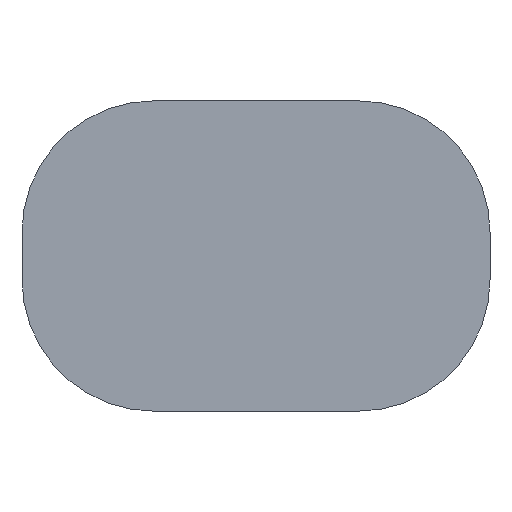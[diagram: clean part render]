
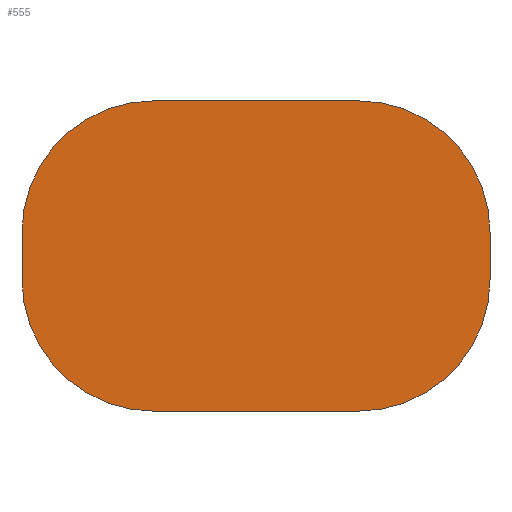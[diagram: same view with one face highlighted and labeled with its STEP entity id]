
A CAD part, left-side view. The second image highlights one B-rep face of the part: STEP entity #555.
In plain terms, the highlighted planar face has unit normal (-1, 0, 0).
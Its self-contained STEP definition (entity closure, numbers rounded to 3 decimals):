
#32 = PLANE('',#33);
#33 = AXIS2_PLACEMENT_3D('',#34,#35,#36);
#34 = CARTESIAN_POINT('',(43.5,-3.9,5.9));
#35 = DIRECTION('',(0.,0.,-1.));
#36 = DIRECTION('',(1.,0.,0.));
#57 = VERTEX_POINT('',#58);
#58 = CARTESIAN_POINT('',(43.5,1.1,5.9));
#72 = CYLINDRICAL_SURFACE('',#73,5.);
#73 = AXIS2_PLACEMENT_3D('',#74,#75,#76);
#74 = CARTESIAN_POINT('',(43.5,1.1,0.9));
#75 = DIRECTION('',(1.,0.,0.));
#76 = DIRECTION('',(0.,0.,1.));
#84 = EDGE_CURVE('',#57,#85,#87,.T.);
#85 = VERTEX_POINT('',#86);
#86 = CARTESIAN_POINT('',(43.5,8.9,5.9));
#87 = SURFACE_CURVE('',#88,(#92,#99),.PCURVE_S1.);
#88 = LINE('',#89,#90);
#89 = CARTESIAN_POINT('',(43.5,-3.9,5.9));
#90 = VECTOR('',#91,1.);
#91 = DIRECTION('',(0.,1.,0.));
#92 = PCURVE('',#32,#93);
#93 = DEFINITIONAL_REPRESENTATION('',(#94),#98);
#94 = LINE('',#95,#96);
#95 = CARTESIAN_POINT('',(0.,0.));
#96 = VECTOR('',#97,1.);
#97 = DIRECTION('',(0.,-1.));
#98 = ( GEOMETRIC_REPRESENTATION_CONTEXT(2) 
PARAMETRIC_REPRESENTATION_CONTEXT() REPRESENTATION_CONTEXT('2D SPACE',''
  ) );
#99 = PCURVE('',#100,#105);
#100 = PLANE('',#101);
#101 = AXIS2_PLACEMENT_3D('',#102,#103,#104);
#102 = CARTESIAN_POINT('',(43.5,-3.9,5.9));
#103 = DIRECTION('',(1.,0.,0.));
#104 = DIRECTION('',(0.,0.,-1.));
#105 = DEFINITIONAL_REPRESENTATION('',(#106),#110);
#106 = LINE('',#107,#108);
#107 = CARTESIAN_POINT('',(0.,0.));
#108 = VECTOR('',#109,1.);
#109 = DIRECTION('',(0.,1.));
#110 = ( GEOMETRIC_REPRESENTATION_CONTEXT(2) 
PARAMETRIC_REPRESENTATION_CONTEXT() REPRESENTATION_CONTEXT('2D SPACE',''
  ) );
#126 = CYLINDRICAL_SURFACE('',#127,5.);
#127 = AXIS2_PLACEMENT_3D('',#128,#129,#130);
#128 = CARTESIAN_POINT('',(43.5,8.9,0.9));
#129 = DIRECTION('',(1.,0.,0.));
#130 = DIRECTION('',(0.,0.,1.));
#182 = PLANE('',#183);
#183 = AXIS2_PLACEMENT_3D('',#184,#185,#186);
#184 = CARTESIAN_POINT('',(43.5,-3.9,5.9));
#185 = DIRECTION('',(0.,1.,0.));
#186 = DIRECTION('',(1.,-0.,0.));
#215 = CYLINDRICAL_SURFACE('',#216,5.);
#216 = AXIS2_PLACEMENT_3D('',#217,#218,#219);
#217 = CARTESIAN_POINT('',(43.5,1.1,-0.9));
#218 = DIRECTION('',(1.,0.,0.));
#219 = DIRECTION('',(0.,0.,-1.));
#243 = PLANE('',#244);
#244 = AXIS2_PLACEMENT_3D('',#245,#246,#247);
#245 = CARTESIAN_POINT('',(43.5,-3.9,-5.9));
#246 = DIRECTION('',(0.,0.,-1.));
#247 = DIRECTION('',(1.,0.,0.));
#272 = CYLINDRICAL_SURFACE('',#273,5.);
#273 = AXIS2_PLACEMENT_3D('',#274,#275,#276);
#274 = CARTESIAN_POINT('',(43.5,8.9,-0.9));
#275 = DIRECTION('',(1.,0.,0.));
#276 = DIRECTION('',(0.,0.,-1.));
#300 = PLANE('',#301);
#301 = AXIS2_PLACEMENT_3D('',#302,#303,#304);
#302 = CARTESIAN_POINT('',(43.5,13.9,5.9));
#303 = DIRECTION('',(0.,1.,0.));
#304 = DIRECTION('',(1.,-0.,0.));
#455 = EDGE_CURVE('',#57,#456,#458,.T.);
#456 = VERTEX_POINT('',#457);
#457 = CARTESIAN_POINT('',(43.5,-3.9,0.9));
#458 = SURFACE_CURVE('',#459,(#464,#471),.PCURVE_S1.);
#459 = CIRCLE('',#460,5.);
#460 = AXIS2_PLACEMENT_3D('',#461,#462,#463);
#461 = CARTESIAN_POINT('',(43.5,1.1,0.9));
#462 = DIRECTION('',(1.,0.,0.));
#463 = DIRECTION('',(0.,-1.,0.));
#464 = PCURVE('',#72,#465);
#465 = DEFINITIONAL_REPRESENTATION('',(#466),#470);
#466 = LINE('',#467,#468);
#467 = CARTESIAN_POINT('',(-4.712,0.));
#468 = VECTOR('',#469,1.);
#469 = DIRECTION('',(1.,0.));
#470 = ( GEOMETRIC_REPRESENTATION_CONTEXT(2) 
PARAMETRIC_REPRESENTATION_CONTEXT() REPRESENTATION_CONTEXT('2D SPACE',''
  ) );
#471 = PCURVE('',#100,#472);
#472 = DEFINITIONAL_REPRESENTATION('',(#473),#477);
#473 = CIRCLE('',#474,5.);
#474 = AXIS2_PLACEMENT_2D('',#475,#476);
#475 = CARTESIAN_POINT('',(5.,5.));
#476 = DIRECTION('',(0.,-1.));
#477 = ( GEOMETRIC_REPRESENTATION_CONTEXT(2) 
PARAMETRIC_REPRESENTATION_CONTEXT() REPRESENTATION_CONTEXT('2D SPACE',''
  ) );
#508 = VERTEX_POINT('',#509);
#509 = CARTESIAN_POINT('',(43.5,13.9,0.9));
#530 = EDGE_CURVE('',#85,#508,#531,.T.);
#531 = SURFACE_CURVE('',#532,(#537,#544),.PCURVE_S1.);
#532 = CIRCLE('',#533,5.);
#533 = AXIS2_PLACEMENT_3D('',#534,#535,#536);
#534 = CARTESIAN_POINT('',(43.5,8.9,0.9));
#535 = DIRECTION('',(-1.,-0.,0.));
#536 = DIRECTION('',(0.,-1.,0.));
#537 = PCURVE('',#126,#538);
#538 = DEFINITIONAL_REPRESENTATION('',(#539),#543);
#539 = LINE('',#540,#541);
#540 = CARTESIAN_POINT('',(7.854,0.));
#541 = VECTOR('',#542,1.);
#542 = DIRECTION('',(-1.,0.));
#543 = ( GEOMETRIC_REPRESENTATION_CONTEXT(2) 
PARAMETRIC_REPRESENTATION_CONTEXT() REPRESENTATION_CONTEXT('2D SPACE',''
  ) );
#544 = PCURVE('',#100,#545);
#545 = DEFINITIONAL_REPRESENTATION('',(#546),#554);
#546 = ( BOUNDED_CURVE() B_SPLINE_CURVE(2,(#547,#548,#549,#550,#551,#552
,#553),.UNSPECIFIED.,.T.,.F.) B_SPLINE_CURVE_WITH_KNOTS((1,2,2,2,2,1),(
    -2.094,0.,2.094,4.189,6.283,
8.378),.UNSPECIFIED.) CURVE() GEOMETRIC_REPRESENTATION_ITEM() 
RATIONAL_B_SPLINE_CURVE((1.,0.5,1.,0.5,1.,0.5,1.)) REPRESENTATION_ITEM(
  '') );
#547 = CARTESIAN_POINT('',(5.,7.8));
#548 = CARTESIAN_POINT('',(-3.66,7.8));
#549 = CARTESIAN_POINT('',(0.67,15.3));
#550 = CARTESIAN_POINT('',(5.,22.8));
#551 = CARTESIAN_POINT('',(9.33,15.3));
#552 = CARTESIAN_POINT('',(13.66,7.8));
#553 = CARTESIAN_POINT('',(5.,7.8));
#554 = ( GEOMETRIC_REPRESENTATION_CONTEXT(2) 
PARAMETRIC_REPRESENTATION_CONTEXT() REPRESENTATION_CONTEXT('2D SPACE',''
  ) );
#555 = ADVANCED_FACE('',(#556),#100,.F.);
#556 = FACE_BOUND('',#557,.F.);
#557 = EDGE_LOOP('',(#558,#559,#560,#583,#611,#634,#658,#679));
#558 = ORIENTED_EDGE('',*,*,#84,.F.);
#559 = ORIENTED_EDGE('',*,*,#455,.T.);
#560 = ORIENTED_EDGE('',*,*,#561,.T.);
#561 = EDGE_CURVE('',#456,#562,#564,.T.);
#562 = VERTEX_POINT('',#563);
#563 = CARTESIAN_POINT('',(43.5,-3.9,-0.9));
#564 = SURFACE_CURVE('',#565,(#569,#576),.PCURVE_S1.);
#565 = LINE('',#566,#567);
#566 = CARTESIAN_POINT('',(43.5,-3.9,5.9));
#567 = VECTOR('',#568,1.);
#568 = DIRECTION('',(0.,0.,-1.));
#569 = PCURVE('',#100,#570);
#570 = DEFINITIONAL_REPRESENTATION('',(#571),#575);
#571 = LINE('',#572,#573);
#572 = CARTESIAN_POINT('',(0.,0.));
#573 = VECTOR('',#574,1.);
#574 = DIRECTION('',(1.,0.));
#575 = ( GEOMETRIC_REPRESENTATION_CONTEXT(2) 
PARAMETRIC_REPRESENTATION_CONTEXT() REPRESENTATION_CONTEXT('2D SPACE',''
  ) );
#576 = PCURVE('',#182,#577);
#577 = DEFINITIONAL_REPRESENTATION('',(#578),#582);
#578 = LINE('',#579,#580);
#579 = CARTESIAN_POINT('',(0.,0.));
#580 = VECTOR('',#581,1.);
#581 = DIRECTION('',(0.,1.));
#582 = ( GEOMETRIC_REPRESENTATION_CONTEXT(2) 
PARAMETRIC_REPRESENTATION_CONTEXT() REPRESENTATION_CONTEXT('2D SPACE',''
  ) );
#583 = ORIENTED_EDGE('',*,*,#584,.F.);
#584 = EDGE_CURVE('',#585,#562,#587,.T.);
#585 = VERTEX_POINT('',#586);
#586 = CARTESIAN_POINT('',(43.5,1.1,-5.9));
#587 = SURFACE_CURVE('',#588,(#593,#604),.PCURVE_S1.);
#588 = CIRCLE('',#589,5.);
#589 = AXIS2_PLACEMENT_3D('',#590,#591,#592);
#590 = CARTESIAN_POINT('',(43.5,1.1,-0.9));
#591 = DIRECTION('',(-1.,-0.,0.));
#592 = DIRECTION('',(0.,-1.,0.));
#593 = PCURVE('',#100,#594);
#594 = DEFINITIONAL_REPRESENTATION('',(#595),#603);
#595 = ( BOUNDED_CURVE() B_SPLINE_CURVE(2,(#596,#597,#598,#599,#600,#601
,#602),.UNSPECIFIED.,.T.,.F.) B_SPLINE_CURVE_WITH_KNOTS((1,2,2,2,2,1),(
    -2.094,0.,2.094,4.189,6.283,
8.378),.UNSPECIFIED.) CURVE() GEOMETRIC_REPRESENTATION_ITEM() 
RATIONAL_B_SPLINE_CURVE((1.,0.5,1.,0.5,1.,0.5,1.)) REPRESENTATION_ITEM(
  '') );
#596 = CARTESIAN_POINT('',(6.8,0.));
#597 = CARTESIAN_POINT('',(-1.86,0.));
#598 = CARTESIAN_POINT('',(2.47,7.5));
#599 = CARTESIAN_POINT('',(6.8,15.));
#600 = CARTESIAN_POINT('',(11.13,7.5));
#601 = CARTESIAN_POINT('',(15.46,0.));
#602 = CARTESIAN_POINT('',(6.8,0.));
#603 = ( GEOMETRIC_REPRESENTATION_CONTEXT(2) 
PARAMETRIC_REPRESENTATION_CONTEXT() REPRESENTATION_CONTEXT('2D SPACE',''
  ) );
#604 = PCURVE('',#215,#605);
#605 = DEFINITIONAL_REPRESENTATION('',(#606),#610);
#606 = LINE('',#607,#608);
#607 = CARTESIAN_POINT('',(10.996,0.));
#608 = VECTOR('',#609,1.);
#609 = DIRECTION('',(-1.,0.));
#610 = ( GEOMETRIC_REPRESENTATION_CONTEXT(2) 
PARAMETRIC_REPRESENTATION_CONTEXT() REPRESENTATION_CONTEXT('2D SPACE',''
  ) );
#611 = ORIENTED_EDGE('',*,*,#612,.T.);
#612 = EDGE_CURVE('',#585,#613,#615,.T.);
#613 = VERTEX_POINT('',#614);
#614 = CARTESIAN_POINT('',(43.5,8.9,-5.9));
#615 = SURFACE_CURVE('',#616,(#620,#627),.PCURVE_S1.);
#616 = LINE('',#617,#618);
#617 = CARTESIAN_POINT('',(43.5,-3.9,-5.9));
#618 = VECTOR('',#619,1.);
#619 = DIRECTION('',(0.,1.,0.));
#620 = PCURVE('',#100,#621);
#621 = DEFINITIONAL_REPRESENTATION('',(#622),#626);
#622 = LINE('',#623,#624);
#623 = CARTESIAN_POINT('',(11.8,0.));
#624 = VECTOR('',#625,1.);
#625 = DIRECTION('',(0.,1.));
#626 = ( GEOMETRIC_REPRESENTATION_CONTEXT(2) 
PARAMETRIC_REPRESENTATION_CONTEXT() REPRESENTATION_CONTEXT('2D SPACE',''
  ) );
#627 = PCURVE('',#243,#628);
#628 = DEFINITIONAL_REPRESENTATION('',(#629),#633);
#629 = LINE('',#630,#631);
#630 = CARTESIAN_POINT('',(0.,0.));
#631 = VECTOR('',#632,1.);
#632 = DIRECTION('',(0.,-1.));
#633 = ( GEOMETRIC_REPRESENTATION_CONTEXT(2) 
PARAMETRIC_REPRESENTATION_CONTEXT() REPRESENTATION_CONTEXT('2D SPACE',''
  ) );
#634 = ORIENTED_EDGE('',*,*,#635,.T.);
#635 = EDGE_CURVE('',#613,#636,#638,.T.);
#636 = VERTEX_POINT('',#637);
#637 = CARTESIAN_POINT('',(43.5,13.9,-0.9));
#638 = SURFACE_CURVE('',#639,(#644,#651),.PCURVE_S1.);
#639 = CIRCLE('',#640,5.);
#640 = AXIS2_PLACEMENT_3D('',#641,#642,#643);
#641 = CARTESIAN_POINT('',(43.5,8.9,-0.9));
#642 = DIRECTION('',(1.,0.,0.));
#643 = DIRECTION('',(0.,-1.,0.));
#644 = PCURVE('',#100,#645);
#645 = DEFINITIONAL_REPRESENTATION('',(#646),#650);
#646 = CIRCLE('',#647,5.);
#647 = AXIS2_PLACEMENT_2D('',#648,#649);
#648 = CARTESIAN_POINT('',(6.8,12.8));
#649 = DIRECTION('',(0.,-1.));
#650 = ( GEOMETRIC_REPRESENTATION_CONTEXT(2) 
PARAMETRIC_REPRESENTATION_CONTEXT() REPRESENTATION_CONTEXT('2D SPACE',''
  ) );
#651 = PCURVE('',#272,#652);
#652 = DEFINITIONAL_REPRESENTATION('',(#653),#657);
#653 = LINE('',#654,#655);
#654 = CARTESIAN_POINT('',(-1.571,0.));
#655 = VECTOR('',#656,1.);
#656 = DIRECTION('',(1.,0.));
#657 = ( GEOMETRIC_REPRESENTATION_CONTEXT(2) 
PARAMETRIC_REPRESENTATION_CONTEXT() REPRESENTATION_CONTEXT('2D SPACE',''
  ) );
#658 = ORIENTED_EDGE('',*,*,#659,.F.);
#659 = EDGE_CURVE('',#508,#636,#660,.T.);
#660 = SURFACE_CURVE('',#661,(#665,#672),.PCURVE_S1.);
#661 = LINE('',#662,#663);
#662 = CARTESIAN_POINT('',(43.5,13.9,5.9));
#663 = VECTOR('',#664,1.);
#664 = DIRECTION('',(0.,0.,-1.));
#665 = PCURVE('',#100,#666);
#666 = DEFINITIONAL_REPRESENTATION('',(#667),#671);
#667 = LINE('',#668,#669);
#668 = CARTESIAN_POINT('',(0.,17.8));
#669 = VECTOR('',#670,1.);
#670 = DIRECTION('',(1.,0.));
#671 = ( GEOMETRIC_REPRESENTATION_CONTEXT(2) 
PARAMETRIC_REPRESENTATION_CONTEXT() REPRESENTATION_CONTEXT('2D SPACE',''
  ) );
#672 = PCURVE('',#300,#673);
#673 = DEFINITIONAL_REPRESENTATION('',(#674),#678);
#674 = LINE('',#675,#676);
#675 = CARTESIAN_POINT('',(0.,0.));
#676 = VECTOR('',#677,1.);
#677 = DIRECTION('',(0.,1.));
#678 = ( GEOMETRIC_REPRESENTATION_CONTEXT(2) 
PARAMETRIC_REPRESENTATION_CONTEXT() REPRESENTATION_CONTEXT('2D SPACE',''
  ) );
#679 = ORIENTED_EDGE('',*,*,#530,.F.);
